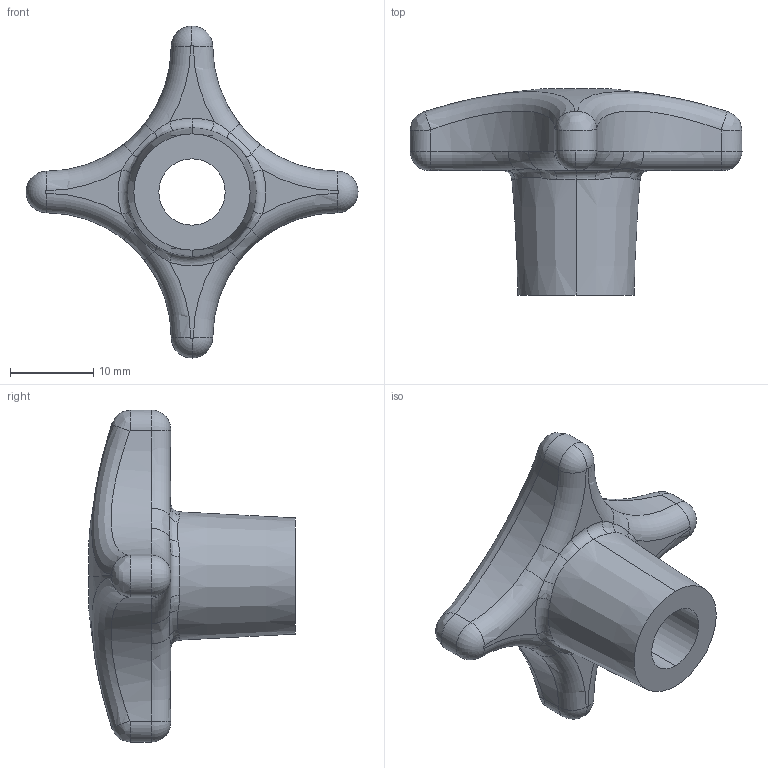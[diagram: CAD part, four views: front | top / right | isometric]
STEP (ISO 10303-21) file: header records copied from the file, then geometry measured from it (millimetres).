
FILE_DESCRIPTION (( 'STEP AP203' ), '1' );
FILE_NAME ('70040.W0740.step', '2019-01-26T19:33:17', ( '' ), ( '' ), 'SwSTEP 2.0', 'SolidWorks 2017', '' );
FILE_SCHEMA (( 'CONFIG_CONTROL_DESIGN' ));
Length unit declared in the file: millimetre
Products named in the file (1): 70040.W0740
Bounding box: 40 x 24.85 x 40 mm (x, y, z)
Volume: 6023.2 mm3; surface area: 3101.1 mm2
Topology: 1 solids, 1 shells, 66 faces, 158 edges, 94 vertices
Faces by surface type: bspline 24, torus 19, cylinder 13, plane 6, cone 2, sphere 2
Entity records: 3416 total; most frequent: CARTESIAN_POINT 1918, ORIENTED_EDGE 316, DIRECTION 293, EDGE_CURVE 158, AXIS2_PLACEMENT_3D 139, CIRCLE 96, VERTEX_POINT 94, EDGE_LOOP 68
